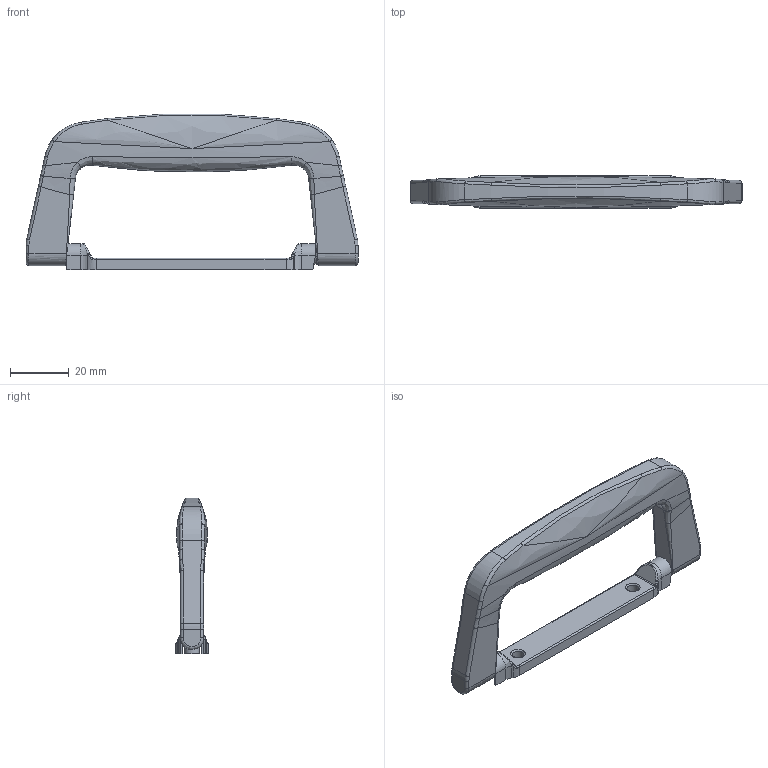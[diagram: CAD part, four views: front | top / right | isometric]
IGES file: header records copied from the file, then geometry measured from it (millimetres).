
Global section: file name: DR_A-007-10; native system: Autodesk Inventor 2015; preprocessor: unknown; author: Administrator; date: 20180808.141324; units: millimetre
Bounding box: 113.5 x 11 x 53.33 mm (x, y, z)
Volume: 23037.1 mm3; surface area: 11170.2 mm2
Topology: 2 solids, 2 shells, 222 faces, 542 edges, 310 vertices
Faces by surface type: bspline 222
